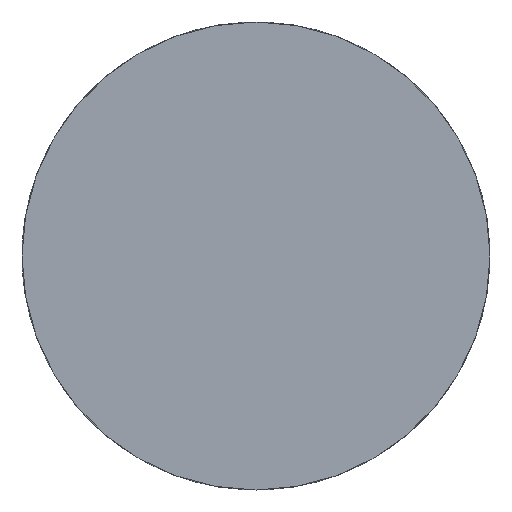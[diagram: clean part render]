
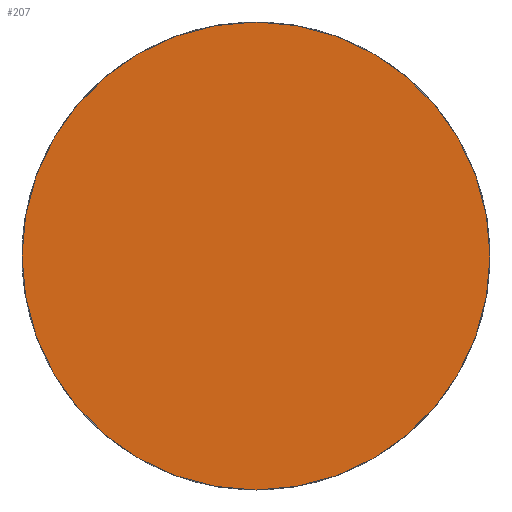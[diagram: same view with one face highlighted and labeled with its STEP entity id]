
A CAD part, left-side view. The second image highlights one B-rep face of the part: STEP entity #207.
In plain terms, the highlighted planar face has unit normal (-1, 0, 0).
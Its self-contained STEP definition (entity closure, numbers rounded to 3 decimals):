
#207 = ADVANCED_FACE( '', ( #560 ), #561, .F. );
#560 = FACE_OUTER_BOUND( '', #1057, .T. );
#561 = PLANE( '', #1058 );
#1057 = EDGE_LOOP( '', ( #1598 ) );
#1058 = AXIS2_PLACEMENT_3D( '', #1599, #1600, #1601 );
#1598 = ORIENTED_EDGE( '', *, *, #3182, .F. );
#1599 = CARTESIAN_POINT( '', ( 0., 0., 0. ) );
#1600 = DIRECTION( '', ( 1., 0., 0. ) );
#1601 = DIRECTION( '', ( 0., 1., 0. ) );
#3182 = EDGE_CURVE( '', #3866, #3866, #3867, .T. );
#3866 = VERTEX_POINT( '', #4861 );
#3867 = CIRCLE( '', #4862, 9.17 );
#4861 = CARTESIAN_POINT( '', ( 0., 9.17, 0. ) );
#4862 = AXIS2_PLACEMENT_3D( '', #6045, #6046, #6047 );
#6045 = CARTESIAN_POINT( '', ( 0., 0., 0. ) );
#6046 = DIRECTION( '', ( 1., 0., 0. ) );
#6047 = DIRECTION( '', ( 0., 1., 0. ) );
